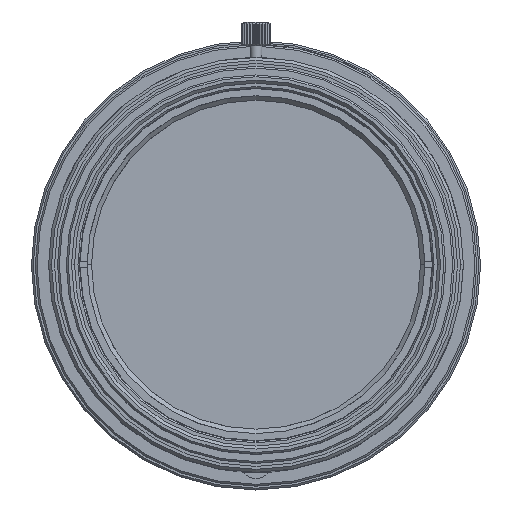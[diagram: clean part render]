
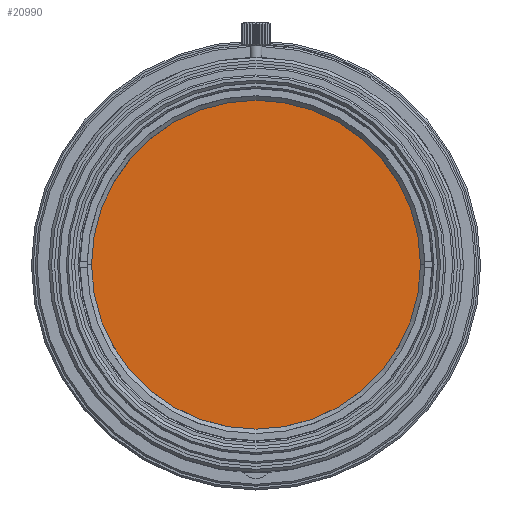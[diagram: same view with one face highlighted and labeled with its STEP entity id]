
A CAD part, top view. The second image highlights one B-rep face of the part: STEP entity #20990.
In plain terms, the highlighted planar face has unit normal (0, 0, 1).
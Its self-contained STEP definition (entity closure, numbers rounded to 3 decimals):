
#109 = CARTESIAN_POINT ( 'NONE',  ( -27.8, 0., 37.925 ) ) ;
#1824 = AXIS2_PLACEMENT_3D ( 'NONE', #52592, #25466, #57214 ) ;
#2327 = AXIS2_PLACEMENT_3D ( 'NONE', #44623, #17476, #49193 ) ;
#5006 = CIRCLE ( 'NONE', #2327, 27.8 ) ;
#17476 = DIRECTION ( 'NONE',  ( 0., 0., -1. ) ) ;
#17903 = CARTESIAN_POINT ( 'NONE',  ( 0., 0., 37.925 ) ) ;
#20286 = FACE_OUTER_BOUND ( 'NONE', #49180, .T. ) ;
#20901 = VERTEX_POINT ( 'NONE', #20904 ) ;
#20904 = CARTESIAN_POINT ( 'NONE',  ( 27.8, 0., 37.925 ) ) ;
#20990 = ADVANCED_FACE ( 'NONE', ( #20286 ), #22477, .F. ) ;
#22477 = PLANE ( 'NONE',  #30222 ) ;
#22915 = CIRCLE ( 'NONE', #1824, 27.8 ) ;
#24768 = ORIENTED_EDGE ( 'NONE', *, *, #46022, .F. ) ;
#25466 = DIRECTION ( 'NONE',  ( 0., 0., -1. ) ) ;
#26700 = EDGE_CURVE ( 'NONE', #34229, #20901, #22915, .T. ) ;
#27061 = DIRECTION ( 'NONE',  ( -1., 0., 0. ) ) ;
#30222 = AXIS2_PLACEMENT_3D ( 'NONE', #17903, #54187, #27061 ) ;
#34229 = VERTEX_POINT ( 'NONE', #109 ) ;
#44623 = CARTESIAN_POINT ( 'NONE',  ( 0., 0., 37.925 ) ) ;
#46022 = EDGE_CURVE ( 'NONE', #20901, #34229, #5006, .T. ) ;
#46272 = ORIENTED_EDGE ( 'NONE', *, *, #26700, .F. ) ;
#49180 = EDGE_LOOP ( 'NONE', ( #46272, #24768 ) ) ;
#49193 = DIRECTION ( 'NONE',  ( -1., 0., 0. ) ) ;
#52592 = CARTESIAN_POINT ( 'NONE',  ( 0., 0., 37.925 ) ) ;
#54187 = DIRECTION ( 'NONE',  ( 0., 0., -1. ) ) ;
#57214 = DIRECTION ( 'NONE',  ( -1., 0., 0. ) ) ;
